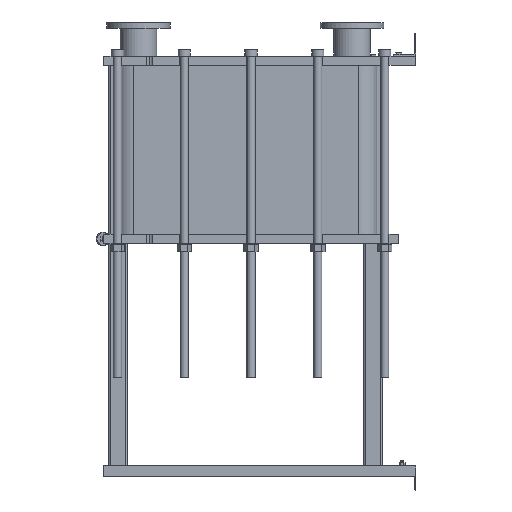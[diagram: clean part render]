
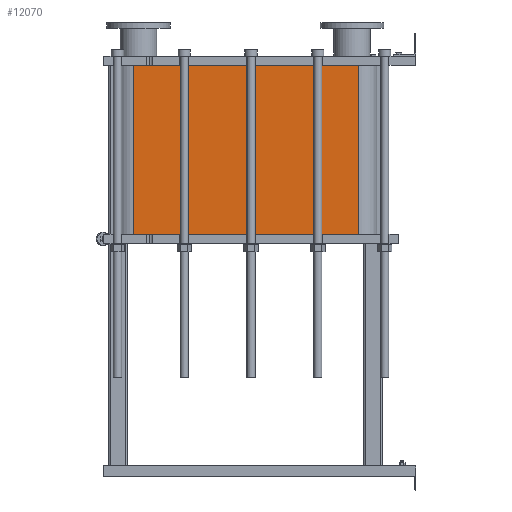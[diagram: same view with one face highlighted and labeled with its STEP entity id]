
A CAD part, left-side view. The second image highlights one B-rep face of the part: STEP entity #12070.
In plain terms, the highlighted planar face has unit normal (-1, 0, 0).
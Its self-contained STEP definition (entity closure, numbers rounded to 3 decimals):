
#1064=LINE('',#21140,#2164);
#1065=LINE('',#21144,#2165);
#1066=LINE('',#21146,#2166);
#1067=LINE('',#21147,#2167);
#2164=VECTOR('',#15790,10.);
#2165=VECTOR('',#15795,10.);
#2166=VECTOR('',#15796,10.);
#2167=VECTOR('',#15797,10.);
#3304=FACE_OUTER_BOUND('',#4091,.T.);
#4091=EDGE_LOOP('',(#9793,#9794,#9795,#9796));
#5677=VERTEX_POINT('',#21137);
#5678=VERTEX_POINT('',#21139);
#5679=VERTEX_POINT('',#21143);
#5680=VERTEX_POINT('',#21145);
#7118=EDGE_CURVE('',#5678,#5677,#1064,.T.);
#7120=EDGE_CURVE('',#5677,#5679,#1065,.T.);
#7121=EDGE_CURVE('',#5680,#5679,#1066,.T.);
#7122=EDGE_CURVE('',#5680,#5678,#1067,.T.);
#9793=ORIENTED_EDGE('',*,*,#7120,.T.);
#9794=ORIENTED_EDGE('',*,*,#7121,.F.);
#9795=ORIENTED_EDGE('',*,*,#7122,.T.);
#9796=ORIENTED_EDGE('',*,*,#7118,.T.);
#11441=PLANE('',#13191);
#12070=ADVANCED_FACE('',(#3304),#11441,.T.);
#13191=AXIS2_PLACEMENT_3D('',#21142,#15793,#15794);
#15790=DIRECTION('',(0.,0.,-1.));
#15793=DIRECTION('center_axis',(-1.,0.,0.));
#15794=DIRECTION('ref_axis',(0.,1.,0.));
#15795=DIRECTION('',(0.,-1.,0.));
#15796=DIRECTION('',(0.,0.,-1.));
#15797=DIRECTION('',(0.,1.,0.));
#21137=CARTESIAN_POINT('',(-248.152,1243.818,-745.2));
#21139=CARTESIAN_POINT('',(-248.152,1243.818,0.));
#21140=CARTESIAN_POINT('',(-248.152,1243.818,0.));
#21142=CARTESIAN_POINT('Origin',(-248.152,251.818,0.));
#21143=CARTESIAN_POINT('',(-248.152,251.818,-745.2));
#21144=CARTESIAN_POINT('',(-248.152,499.818,-745.2));
#21145=CARTESIAN_POINT('',(-248.152,251.818,0.));
#21146=CARTESIAN_POINT('',(-248.152,251.818,0.));
#21147=CARTESIAN_POINT('',(-248.152,251.818,0.));
